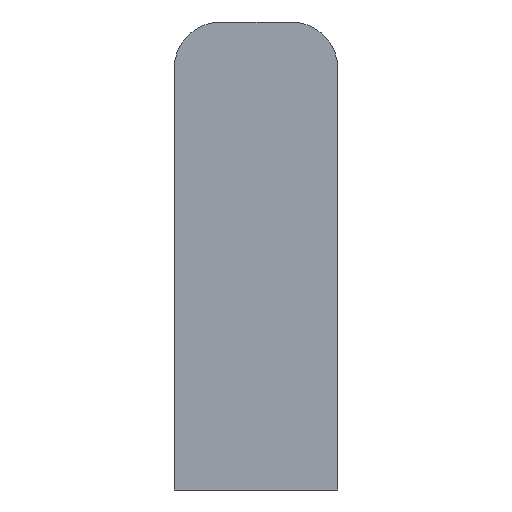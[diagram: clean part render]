
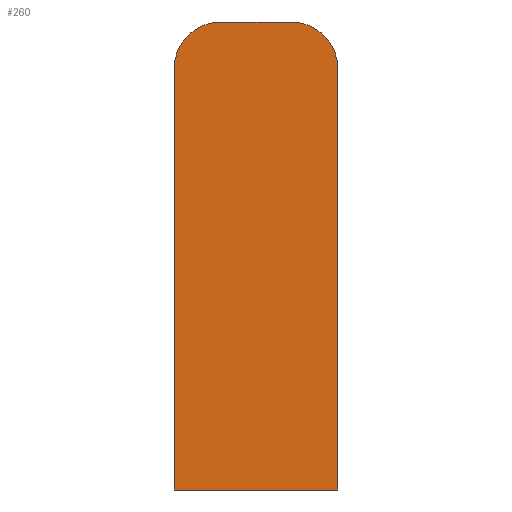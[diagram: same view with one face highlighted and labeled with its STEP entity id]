
A CAD part, front view. The second image highlights one B-rep face of the part: STEP entity #260.
In plain terms, the highlighted planar face has unit normal (0, -1, 0).
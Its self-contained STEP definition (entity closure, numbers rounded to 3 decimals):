
#2 = LINE ( 'NONE', #296, #111 ) ;
#13 = ORIENTED_EDGE ( 'NONE', *, *, #199, .T. ) ;
#14 = VECTOR ( 'NONE', #347, 1000. ) ;
#30 = ORIENTED_EDGE ( 'NONE', *, *, #185, .T. ) ;
#31 = EDGE_LOOP ( 'NONE', ( #30, #13, #78, #80, #69, #70 ) ) ;
#69 = ORIENTED_EDGE ( 'NONE', *, *, #189, .T. ) ;
#70 = ORIENTED_EDGE ( 'NONE', *, *, #212, .T. ) ;
#78 = ORIENTED_EDGE ( 'NONE', *, *, #183, .T. ) ;
#80 = ORIENTED_EDGE ( 'NONE', *, *, #223, .T. ) ;
#87 = CIRCLE ( 'NONE', #192, 3. ) ;
#94 = LINE ( 'NONE', #346, #14 ) ;
#109 = LINE ( 'NONE', #315, #110 ) ;
#110 = VECTOR ( 'NONE', #304, 1000. ) ;
#111 = VECTOR ( 'NONE', #313, 1000. ) ;
#127 = CIRCLE ( 'NONE', #182, 3. ) ;
#168 = VECTOR ( 'NONE', #306, 1000. ) ;
#169 = LINE ( 'NONE', #305, #168 ) ;
#172 = FACE_OUTER_BOUND ( 'NONE', #31, .T. ) ;
#182 = AXIS2_PLACEMENT_3D ( 'NONE', #350, #361, #362 ) ;
#183 = EDGE_CURVE ( 'NONE', #269, #274, #2, .T. ) ;
#185 = EDGE_CURVE ( 'NONE', #273, #266, #109, .T. ) ;
#189 = EDGE_CURVE ( 'NONE', #268, #279, #169, .T. ) ;
#192 = AXIS2_PLACEMENT_3D ( 'NONE', #318, #326, #327 ) ;
#199 = EDGE_CURVE ( 'NONE', #266, #269, #87, .T. ) ;
#212 = EDGE_CURVE ( 'NONE', #279, #273, #94, .T. ) ;
#223 = EDGE_CURVE ( 'NONE', #274, #268, #127, .T. ) ;
#241 = AXIS2_PLACEMENT_3D ( 'NONE', #412, #418, #419 ) ;
#260 = ADVANCED_FACE ( 'NONE', ( #172 ), #408, .F. ) ;
#266 = VERTEX_POINT ( 'NONE', #420 ) ;
#268 = VERTEX_POINT ( 'NONE', #429 ) ;
#269 = VERTEX_POINT ( 'NONE', #430 ) ;
#273 = VERTEX_POINT ( 'NONE', #433 ) ;
#274 = VERTEX_POINT ( 'NONE', #434 ) ;
#279 = VERTEX_POINT ( 'NONE', #438 ) ;
#296 = CARTESIAN_POINT ( 'NONE',  ( 2.25, 0., 13.5 ) ) ;
#304 = DIRECTION ( 'NONE',  ( 0., 0., 1. ) ) ;
#305 = CARTESIAN_POINT ( 'NONE',  ( -5.25, 0., -16.5 ) ) ;
#306 = DIRECTION ( 'NONE',  ( 0., 0., -1. ) ) ;
#313 = DIRECTION ( 'NONE',  ( -1., 0., 0. ) ) ;
#315 = CARTESIAN_POINT ( 'NONE',  ( 5.25, 0., -16.5 ) ) ;
#318 = CARTESIAN_POINT ( 'NONE',  ( 2.25, 0., 10.5 ) ) ;
#326 = DIRECTION ( 'NONE',  ( 0., -1., 0. ) ) ;
#327 = DIRECTION ( 'NONE',  ( -1., 0., 0. ) ) ;
#346 = CARTESIAN_POINT ( 'NONE',  ( 5.25, 0., -16.5 ) ) ;
#347 = DIRECTION ( 'NONE',  ( 1., 0., 0. ) ) ;
#350 = CARTESIAN_POINT ( 'NONE',  ( -2.25, 0., 10.5 ) ) ;
#361 = DIRECTION ( 'NONE',  ( 0., -1., 0. ) ) ;
#362 = DIRECTION ( 'NONE',  ( -1., 0., 0. ) ) ;
#408 = PLANE ( 'NONE',  #241 ) ;
#412 = CARTESIAN_POINT ( 'NONE',  ( 0., 0., -1.5 ) ) ;
#418 = DIRECTION ( 'NONE',  ( 0., 1., 0. ) ) ;
#419 = DIRECTION ( 'NONE',  ( -1., 0., 0. ) ) ;
#420 = CARTESIAN_POINT ( 'NONE',  ( 5.25, 0., 10.5 ) ) ;
#429 = CARTESIAN_POINT ( 'NONE',  ( -5.25, 0., 10.5 ) ) ;
#430 = CARTESIAN_POINT ( 'NONE',  ( 2.25, 0., 13.5 ) ) ;
#433 = CARTESIAN_POINT ( 'NONE',  ( 5.25, 0., -16.5 ) ) ;
#434 = CARTESIAN_POINT ( 'NONE',  ( -2.25, 0., 13.5 ) ) ;
#438 = CARTESIAN_POINT ( 'NONE',  ( -5.25, 0., -16.5 ) ) ;
